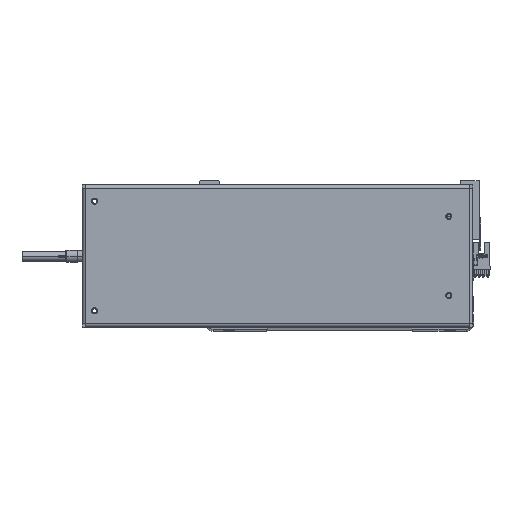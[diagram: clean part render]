
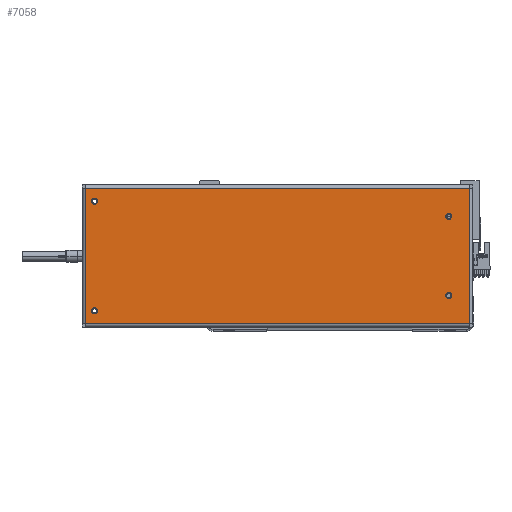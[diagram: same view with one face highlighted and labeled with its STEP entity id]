
A CAD part, top view. The second image highlights one B-rep face of the part: STEP entity #7058.
In plain terms, the highlighted planar face has unit normal (0, 0, 1).
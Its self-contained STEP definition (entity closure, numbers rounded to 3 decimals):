
#55 = DIRECTION ( 'NONE',  ( 0., 0., 1. ) ) ;
#150 = CARTESIAN_POINT ( 'NONE',  ( -140.5, 32.5, 0. ) ) ;
#403 = CARTESIAN_POINT ( 'NONE',  ( 148., 45., 0. ) ) ;
#678 = FACE_BOUND ( 'NONE', #3517, .T. ) ;
#1585 = EDGE_CURVE ( 'NONE', #3078, #27349, #19351, .T. ) ;
#2349 = ORIENTED_EDGE ( 'NONE', *, *, #32040, .T. ) ;
#2809 = AXIS2_PLACEMENT_3D ( 'NONE', #10475, #4322, #17173 ) ;
#3047 = CARTESIAN_POINT ( 'NONE',  ( -157.6, 55.6, 0. ) ) ;
#3078 = VERTEX_POINT ( 'NONE', #13612 ) ;
#3130 = VECTOR ( 'NONE', #8590, 1000. ) ;
#3198 = VERTEX_POINT ( 'NONE', #8370 ) ;
#3376 = DIRECTION ( 'NONE',  ( 1., 0., 0. ) ) ;
#3517 = EDGE_LOOP ( 'NONE', ( #20880, #4146 ) ) ;
#3567 = FACE_BOUND ( 'NONE', #27270, .T. ) ;
#3668 = AXIS2_PLACEMENT_3D ( 'NONE', #14346, #17820, #8310 ) ;
#3785 = CARTESIAN_POINT ( 'NONE',  ( -157.6, 55.6, 0. ) ) ;
#4146 = ORIENTED_EDGE ( 'NONE', *, *, #23452, .F. ) ;
#4197 = ORIENTED_EDGE ( 'NONE', *, *, #18973, .F. ) ;
#4322 = DIRECTION ( 'NONE',  ( 0., 0., 1. ) ) ;
#5551 = AXIS2_PLACEMENT_3D ( 'NONE', #150, #18407, #3376 ) ;
#5973 = FACE_BOUND ( 'NONE', #30918, .T. ) ;
#6607 = ORIENTED_EDGE ( 'NONE', *, *, #1585, .T. ) ;
#6778 = CARTESIAN_POINT ( 'NONE',  ( -140.5, 32.5, 0. ) ) ;
#7058 = ADVANCED_FACE ( 'NONE', ( #5973, #3567, #25097, #678, #20314 ), #33041, .F. ) ;
#7282 = AXIS2_PLACEMENT_3D ( 'NONE', #8115, #35497, #8519 ) ;
#7357 = CIRCLE ( 'NONE', #30384, 2.5 ) ;
#7918 = DIRECTION ( 'NONE',  ( 1., 0., 0. ) ) ;
#8115 = CARTESIAN_POINT ( 'NONE',  ( 150.5, -45., 0. ) ) ;
#8310 = DIRECTION ( 'NONE',  ( -1., 0., 0. ) ) ;
#8346 = EDGE_CURVE ( 'NONE', #27667, #22540, #34536, .T. ) ;
#8370 = CARTESIAN_POINT ( 'NONE',  ( -138., 32.5, 0. ) ) ;
#8519 = DIRECTION ( 'NONE',  ( 1., 0., 0. ) ) ;
#8537 = LINE ( 'NONE', #3047, #22879 ) ;
#8590 = DIRECTION ( 'NONE',  ( 0., 1., 0. ) ) ;
#9011 = CARTESIAN_POINT ( 'NONE',  ( 153., -45., 0. ) ) ;
#9504 = EDGE_CURVE ( 'NONE', #3198, #10156, #15353, .T. ) ;
#10156 = VERTEX_POINT ( 'NONE', #32306 ) ;
#10340 = CARTESIAN_POINT ( 'NONE',  ( 148., -45., 0. ) ) ;
#10475 = CARTESIAN_POINT ( 'NONE',  ( 150.5, 45., 0. ) ) ;
#11274 = EDGE_LOOP ( 'NONE', ( #25743, #17533 ) ) ;
#11279 = LINE ( 'NONE', #19630, #3130 ) ;
#11425 = EDGE_LOOP ( 'NONE', ( #14984, #6607, #18913, #2349 ) ) ;
#12134 = CARTESIAN_POINT ( 'NONE',  ( -140.5, -32.5, 0. ) ) ;
#12414 = CARTESIAN_POINT ( 'NONE',  ( 157.6, -55.6, 0. ) ) ;
#12503 = LINE ( 'NONE', #23864, #25883 ) ;
#13081 = AXIS2_PLACEMENT_3D ( 'NONE', #17469, #23205, #14257 ) ;
#13606 = CIRCLE ( 'NONE', #7282, 2.5 ) ;
#13612 = CARTESIAN_POINT ( 'NONE',  ( -157.6, -55.6, 0. ) ) ;
#13837 = ORIENTED_EDGE ( 'NONE', *, *, #8346, .F. ) ;
#14018 = VERTEX_POINT ( 'NONE', #9011 ) ;
#14257 = DIRECTION ( 'NONE',  ( 1., 0., 0. ) ) ;
#14346 = CARTESIAN_POINT ( 'NONE',  ( 157.7, 58.5, 0. ) ) ;
#14984 = ORIENTED_EDGE ( 'NONE', *, *, #26510, .T. ) ;
#15130 = DIRECTION ( 'NONE',  ( 1., 0., 0. ) ) ;
#15327 = EDGE_CURVE ( 'NONE', #14018, #36921, #13606, .T. ) ;
#15353 = CIRCLE ( 'NONE', #5551, 2.5 ) ;
#15997 = VECTOR ( 'NONE', #7918, 1000. ) ;
#17173 = DIRECTION ( 'NONE',  ( 1., 0., 0. ) ) ;
#17469 = CARTESIAN_POINT ( 'NONE',  ( 150.5, 45., 0. ) ) ;
#17533 = ORIENTED_EDGE ( 'NONE', *, *, #39092, .F. ) ;
#17820 = DIRECTION ( 'NONE',  ( 0., 0., -1. ) ) ;
#18272 = DIRECTION ( 'NONE',  ( -1., 0., 0. ) ) ;
#18407 = DIRECTION ( 'NONE',  ( 0., 0., 1. ) ) ;
#18913 = ORIENTED_EDGE ( 'NONE', *, *, #33867, .T. ) ;
#18973 = EDGE_CURVE ( 'NONE', #22540, #27667, #38825, .T. ) ;
#19351 = LINE ( 'NONE', #31987, #15997 ) ;
#19594 = VERTEX_POINT ( 'NONE', #403 ) ;
#19630 = CARTESIAN_POINT ( 'NONE',  ( 157.6, -55.6, 0. ) ) ;
#20034 = DIRECTION ( 'NONE',  ( 1., 0., 0. ) ) ;
#20224 = CARTESIAN_POINT ( 'NONE',  ( -143., -32.5, 0. ) ) ;
#20286 = CARTESIAN_POINT ( 'NONE',  ( -140.5, -32.5, 0. ) ) ;
#20314 = FACE_OUTER_BOUND ( 'NONE', #11425, .T. ) ;
#20880 = ORIENTED_EDGE ( 'NONE', *, *, #32179, .F. ) ;
#21199 = AXIS2_PLACEMENT_3D ( 'NONE', #20286, #26293, #20034 ) ;
#21541 = CARTESIAN_POINT ( 'NONE',  ( 150.5, -45., 0. ) ) ;
#21674 = DIRECTION ( 'NONE',  ( 0., -1., 0. ) ) ;
#21810 = VERTEX_POINT ( 'NONE', #31465 ) ;
#22540 = VERTEX_POINT ( 'NONE', #31698 ) ;
#22879 = VECTOR ( 'NONE', #21674, 1000. ) ;
#23205 = DIRECTION ( 'NONE',  ( 0., 0., 1. ) ) ;
#23452 = EDGE_CURVE ( 'NONE', #19594, #21810, #38632, .T. ) ;
#23859 = ORIENTED_EDGE ( 'NONE', *, *, #35692, .F. ) ;
#23864 = CARTESIAN_POINT ( 'NONE',  ( 157.7, 55.6, 0. ) ) ;
#25097 = FACE_BOUND ( 'NONE', #11274, .T. ) ;
#25743 = ORIENTED_EDGE ( 'NONE', *, *, #15327, .F. ) ;
#25883 = VECTOR ( 'NONE', #18272, 1000. ) ;
#26293 = DIRECTION ( 'NONE',  ( 0., 0., 1. ) ) ;
#26510 = EDGE_CURVE ( 'NONE', #27138, #3078, #8537, .T. ) ;
#27138 = VERTEX_POINT ( 'NONE', #3785 ) ;
#27270 = EDGE_LOOP ( 'NONE', ( #36137, #23859 ) ) ;
#27349 = VERTEX_POINT ( 'NONE', #12414 ) ;
#27376 = DIRECTION ( 'NONE',  ( 1., 0., 0. ) ) ;
#27667 = VERTEX_POINT ( 'NONE', #20224 ) ;
#28289 = CARTESIAN_POINT ( 'NONE',  ( 157.6, 55.6, 0. ) ) ;
#29112 = AXIS2_PLACEMENT_3D ( 'NONE', #12134, #55, #27376 ) ;
#30384 = AXIS2_PLACEMENT_3D ( 'NONE', #6778, #31241, #37107 ) ;
#30918 = EDGE_LOOP ( 'NONE', ( #4197, #13837 ) ) ;
#31241 = DIRECTION ( 'NONE',  ( 0., 0., 1. ) ) ;
#31465 = CARTESIAN_POINT ( 'NONE',  ( 153., 45., 0. ) ) ;
#31698 = CARTESIAN_POINT ( 'NONE',  ( -138., -32.5, 0. ) ) ;
#31987 = CARTESIAN_POINT ( 'NONE',  ( -157.7, -55.6, 0. ) ) ;
#32040 = EDGE_CURVE ( 'NONE', #32174, #27138, #12503, .T. ) ;
#32174 = VERTEX_POINT ( 'NONE', #28289 ) ;
#32179 = EDGE_CURVE ( 'NONE', #21810, #19594, #36397, .T. ) ;
#32238 = AXIS2_PLACEMENT_3D ( 'NONE', #21541, #39732, #15130 ) ;
#32306 = CARTESIAN_POINT ( 'NONE',  ( -143., 32.5, 0. ) ) ;
#33041 = PLANE ( 'NONE',  #3668 ) ;
#33867 = EDGE_CURVE ( 'NONE', #27349, #32174, #11279, .T. ) ;
#34536 = CIRCLE ( 'NONE', #29112, 2.5 ) ;
#35497 = DIRECTION ( 'NONE',  ( 0., 0., 1. ) ) ;
#35692 = EDGE_CURVE ( 'NONE', #10156, #3198, #7357, .T. ) ;
#36137 = ORIENTED_EDGE ( 'NONE', *, *, #9504, .F. ) ;
#36397 = CIRCLE ( 'NONE', #2809, 2.5 ) ;
#36921 = VERTEX_POINT ( 'NONE', #10340 ) ;
#37107 = DIRECTION ( 'NONE',  ( 1., 0., 0. ) ) ;
#37240 = CIRCLE ( 'NONE', #32238, 2.5 ) ;
#38632 = CIRCLE ( 'NONE', #13081, 2.5 ) ;
#38825 = CIRCLE ( 'NONE', #21199, 2.5 ) ;
#39092 = EDGE_CURVE ( 'NONE', #36921, #14018, #37240, .T. ) ;
#39732 = DIRECTION ( 'NONE',  ( 0., 0., 1. ) ) ;
